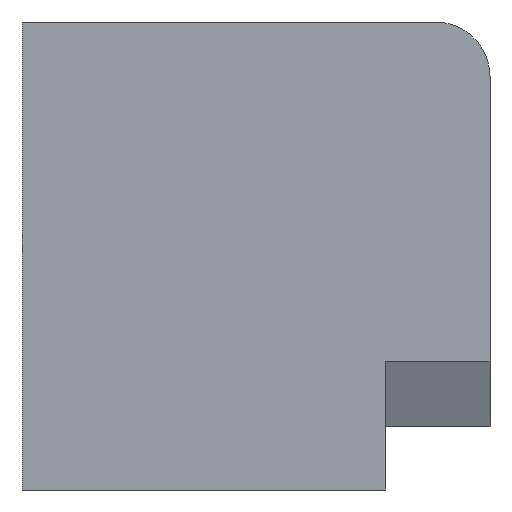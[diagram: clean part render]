
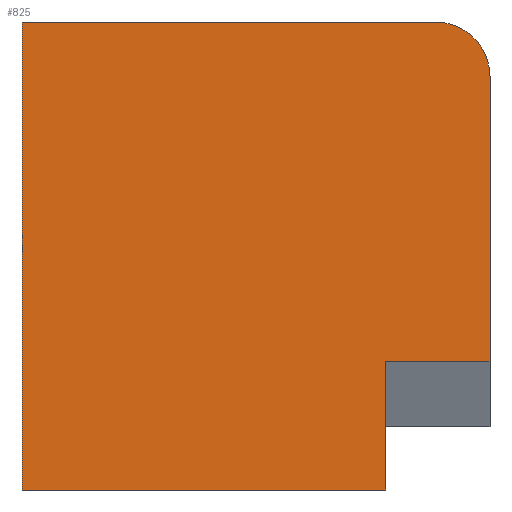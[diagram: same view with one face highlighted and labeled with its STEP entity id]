
A CAD part, front view. The second image highlights one B-rep face of the part: STEP entity #825.
In plain terms, the highlighted planar face has unit normal (0, -1, 0).
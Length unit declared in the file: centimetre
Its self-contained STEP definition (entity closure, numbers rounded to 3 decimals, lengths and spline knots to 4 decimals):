
#40 = ORIENTED_EDGE ( 'NONE', *, *, #263, .T. ) ;
#54 = EDGE_CURVE ( 'NONE', #86, #657, #537, .T. ) ;
#86 = VERTEX_POINT ( 'NONE', #291 ) ;
#125 = CIRCLE ( 'NONE', #727, 116.5006 ) ;
#193 = DIRECTION ( 'NONE',  ( 0., 0., -1. ) ) ;
#215 = DIRECTION ( 'NONE',  ( 0., 0., -1. ) ) ;
#229 = CARTESIAN_POINT ( 'NONE',  ( 883.4994, 0., 1000. ) ) ;
#263 = EDGE_CURVE ( 'NONE', #810, #657, #859, .T. ) ;
#275 = ORIENTED_EDGE ( 'NONE', *, *, #54, .F. ) ;
#282 = DIRECTION ( 'NONE',  ( 0., 0., -1. ) ) ;
#291 = CARTESIAN_POINT ( 'NONE',  ( 777.3686, 0., 273.6489 ) ) ;
#295 = VERTEX_POINT ( 'NONE', #966 ) ;
#302 = VECTOR ( 'NONE', #282, 100. ) ;
#305 = LINE ( 'NONE', #957, #355 ) ;
#319 = DIRECTION ( 'NONE',  ( 0., 1., 0. ) ) ;
#325 = CARTESIAN_POINT ( 'NONE',  ( 1000., 0., 1000. ) ) ;
#329 = ORIENTED_EDGE ( 'NONE', *, *, #1022, .F. ) ;
#339 = EDGE_CURVE ( 'NONE', #295, #356, #125, .T. ) ;
#347 = CARTESIAN_POINT ( 'NONE',  ( 777.3686, 0., 273.6489 ) ) ;
#348 = CARTESIAN_POINT ( 'NONE',  ( 0., 0., 1000. ) ) ;
#355 = VECTOR ( 'NONE', #878, 100. ) ;
#356 = VERTEX_POINT ( 'NONE', #229 ) ;
#360 = EDGE_LOOP ( 'NONE', ( #275, #513, #381, #394, #329, #634, #40 ) ) ;
#370 = EDGE_CURVE ( 'NONE', #295, #594, #948, .T. ) ;
#373 = VECTOR ( 'NONE', #447, 100. ) ;
#381 = ORIENTED_EDGE ( 'NONE', *, *, #370, .F. ) ;
#394 = ORIENTED_EDGE ( 'NONE', *, *, #339, .T. ) ;
#431 = CARTESIAN_POINT ( 'NONE',  ( 777.3686, 0., 273.6489 ) ) ;
#447 = DIRECTION ( 'NONE',  ( 1., 0., 0. ) ) ;
#473 = DIRECTION ( 'NONE',  ( 0., 0., 1. ) ) ;
#478 = CARTESIAN_POINT ( 'NONE',  ( 883.4994, 0., 883.4994 ) ) ;
#481 = VERTEX_POINT ( 'NONE', #348 ) ;
#513 = ORIENTED_EDGE ( 'NONE', *, *, #804, .T. ) ;
#515 = AXIS2_PLACEMENT_3D ( 'NONE', #1050, #319, #557 ) ;
#532 = CARTESIAN_POINT ( 'NONE',  ( 777.3686, 0., 0. ) ) ;
#537 = LINE ( 'NONE', #431, #783 ) ;
#557 = DIRECTION ( 'NONE',  ( 0., 0., 1. ) ) ;
#594 = VERTEX_POINT ( 'NONE', #889 ) ;
#612 = EDGE_CURVE ( 'NONE', #481, #810, #912, .T. ) ;
#634 = ORIENTED_EDGE ( 'NONE', *, *, #612, .T. ) ;
#657 = VERTEX_POINT ( 'NONE', #532 ) ;
#727 = AXIS2_PLACEMENT_3D ( 'NONE', #478, #1055, #473 ) ;
#756 = CARTESIAN_POINT ( 'NONE',  ( 0., 0., 0. ) ) ;
#782 = DIRECTION ( 'NONE',  ( 1., 0., 0. ) ) ;
#783 = VECTOR ( 'NONE', #193, 100. ) ;
#795 = PLANE ( 'NONE',  #515 ) ;
#804 = EDGE_CURVE ( 'NONE', #86, #594, #916, .T. ) ;
#810 = VERTEX_POINT ( 'NONE', #756 ) ;
#825 = ADVANCED_FACE ( 'NONE', ( #977 ), #795, .F. ) ;
#859 = LINE ( 'NONE', #1006, #1054 ) ;
#878 = DIRECTION ( 'NONE',  ( 1., 0., 0. ) ) ;
#889 = CARTESIAN_POINT ( 'NONE',  ( 1000., 0., 273.6489 ) ) ;
#912 = LINE ( 'NONE', #1011, #302 ) ;
#916 = LINE ( 'NONE', #347, #373 ) ;
#948 = LINE ( 'NONE', #325, #1033 ) ;
#957 = CARTESIAN_POINT ( 'NONE',  ( 0., 0., 1000. ) ) ;
#966 = CARTESIAN_POINT ( 'NONE',  ( 1000., 0., 883.4994 ) ) ;
#977 = FACE_OUTER_BOUND ( 'NONE', #360, .T. ) ;
#1006 = CARTESIAN_POINT ( 'NONE',  ( 0., 0., 0. ) ) ;
#1011 = CARTESIAN_POINT ( 'NONE',  ( 0., 0., 1000. ) ) ;
#1022 = EDGE_CURVE ( 'NONE', #481, #356, #305, .T. ) ;
#1033 = VECTOR ( 'NONE', #215, 100. ) ;
#1050 = CARTESIAN_POINT ( 'NONE',  ( 0., 0., 1000. ) ) ;
#1054 = VECTOR ( 'NONE', #782, 100. ) ;
#1055 = DIRECTION ( 'NONE',  ( 0., -1., 0. ) ) ;
